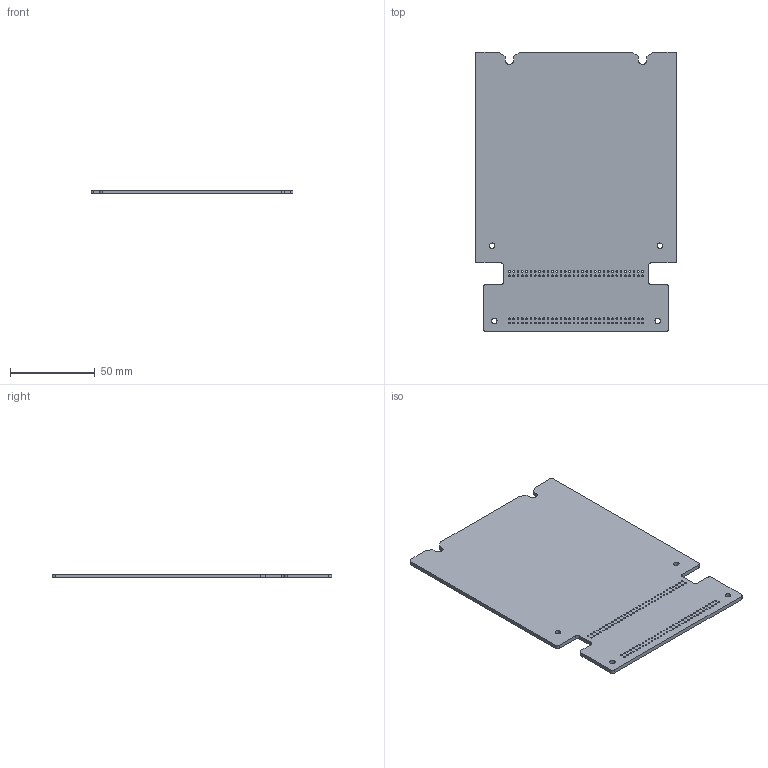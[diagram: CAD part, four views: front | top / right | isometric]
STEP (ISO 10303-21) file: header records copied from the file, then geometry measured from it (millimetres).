
FILE_DESCRIPTION(/* description */ (''),/* implementation_level */ '2;1');
FILE_NAME(/* name */ 'High Density CB Connector Board v9.step',/* time_stamp */ '2023-11-06T12:55:40-05:00',/* author */ (''),/* organization */ (''),/* preprocessor_version */ 'ST-DEVELOPER v20',/* originating_system */ 'Autodesk Translation Framework v12.14.0.127',/* authorisation */ '');
FILE_SCHEMA (('AUTOMOTIVE_DESIGN { 1 0 10303 214 3 1 1 }'));
Length unit declared in the file: inch
Products named in the file (2): High Density CB Connector Board; HD CB Connector Board
Assembly tree (1 placements, depth 2):
  High Density CB Connector Board
    HD CB Connector Board
Bounding box: 119.38 x 165.1 x 2.36 mm (x, y, z)
Volume: 44362.5 mm3; surface area: 40074.6 mm2
Topology: 1 solids, 1 shells, 170 faces, 504 edges, 336 vertices
Faces by surface type: cylinder 146, plane 24
Full cylindrical faces by diameter (mm): 0.991 x128, 3.251 x4
Entity records: 6450 total; most frequent: DIRECTION 1142, CARTESIAN_POINT 1013, ORIENTED_EDGE 1008, EDGE_CURVE 504, AXIS2_PLACEMENT_3D 465, EDGE_LOOP 434, VERTEX_POINT 336, CIRCLE 292
